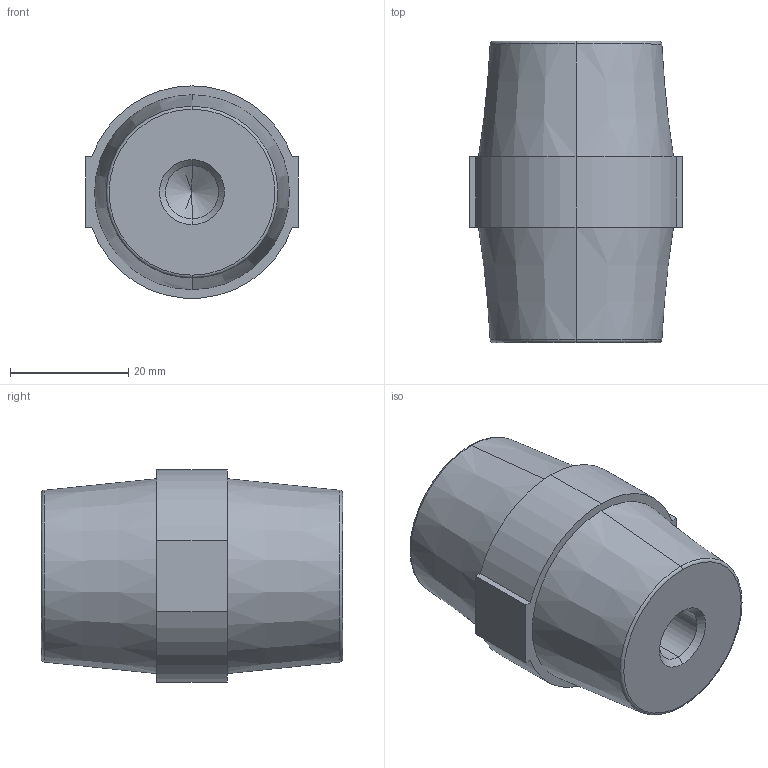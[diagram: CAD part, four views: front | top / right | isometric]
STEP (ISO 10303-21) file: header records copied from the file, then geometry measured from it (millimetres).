
FILE_DESCRIPTION (( 'STEP AP214' ), '1' );
FILE_NAME ('SM-51.STEP', '2026-01-27T09:16:52', ( '' ), ( '' ), 'SwSTEP 2.0', 'SolidWorks 2022', '' );
FILE_SCHEMA (( 'AUTOMOTIVE_DESIGN' ));
Length unit declared in the file: millimetre
Products named in the file (1): SM-51
Bounding box: 36 x 51 x 35.94 mm (x, y, z)
Volume: 39855 mm3; surface area: 7633 mm2
Topology: 1 solids, 1 shells, 33 faces, 75 edges, 44 vertices
Faces by surface type: cone 12, plane 10, cylinder 7, torus 4
Entity records: 1120 total; most frequent: DIRECTION 173, CARTESIAN_POINT 149, ORIENTED_EDGE 142, EDGE_CURVE 71, AXIS2_PLACEMENT_3D 68, VERTEX_POINT 44, LINE 37, EDGE_LOOP 37
